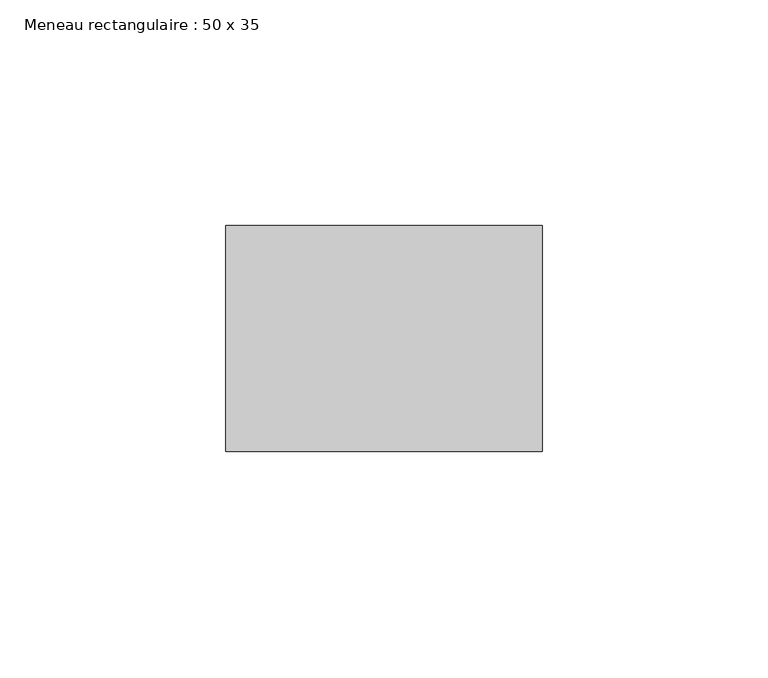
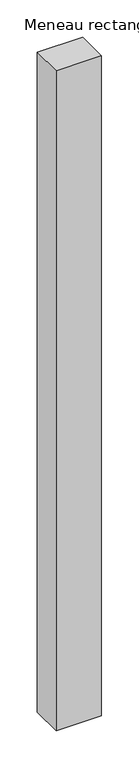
"""IFC4 building model written with IfcOpenShell, lengths in millimetres: member geometry, Meneau rectangulaire : 50 x 35."""

from ifc_helpers import new_model, si_unit, frame, origin, place, context, project, spatial, polyline, outline, extrude, source, transform, mapped, element, save


def meneau_rectangulaire_50_x_35_b500326f(model_context):
    return source(origin(), model_context, "Body", "SweptSolid", [
        extrude(outline(polyline([(35.0, 0.0), (35.0, -50.0), (-35.0, -50.0), (-35.0, 0.0), (35.0, 0.0)])), frame((0.0, 0.0, -1077.2754407), z_axis=(0.0, 0.0, 1.0), x_axis=(1.0, 0.0, 0.0)), (0.0, 0.0, 1.0), 1077.2754407),
    ])


if __name__ == "__main__":
    model = new_model("IFC4")
    model_context = context("Model", 3, world=origin())
    ifc_project = project(units=[si_unit("LENGTHUNIT", "METRE", prefix="MILLI")], contexts=[model_context])
    site = spatial("IfcSite", under=ifc_project)
    building = spatial("IfcBuilding", under=site)
    placement = place(None, origin())
    meneau_rectangulaire_50_x_35_shape = meneau_rectangulaire_50_x_35_b500326f(model_context)
    element("IfcMember", 1, ObjectType="Meneau rectangulaire : 50 x 35", at=placement, inside=building, context=model_context, shape_type="MappedRepresentation", body=[
        mapped(meneau_rectangulaire_50_x_35_shape, transform((0.0, 0.0, 0.0), x_axis=(1.0, 0.0, 0.0), y_axis=(0.0, 1.0, 0.0), z_axis=(0.0, 0.0, 1.0))),
    ])
    save(model, "model.ifc")
